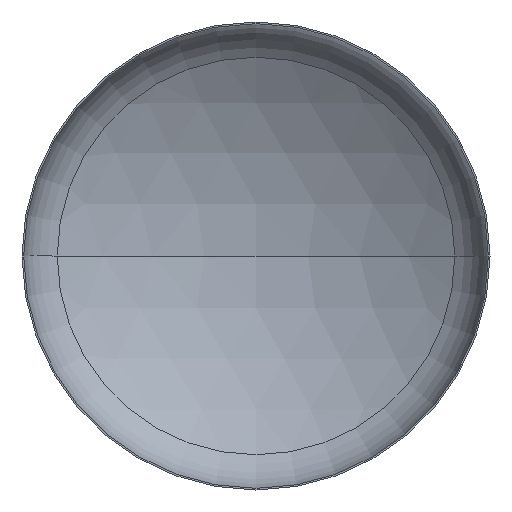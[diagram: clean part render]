
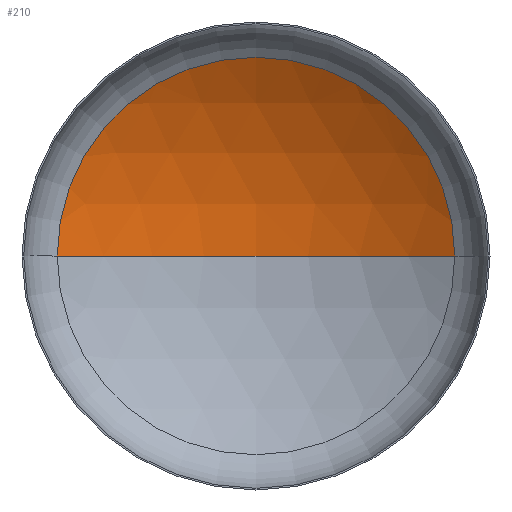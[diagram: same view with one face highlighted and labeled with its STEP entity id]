
A CAD part, front view. The second image highlights one B-rep face of the part: STEP entity #210.
In plain terms, the highlighted spherical face has radius 1360 mm.
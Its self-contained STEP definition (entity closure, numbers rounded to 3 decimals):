
#7 = AXIS2_PLACEMENT_3D ( 'NONE', #174, #360, #214 ) ;
#8 = CARTESIAN_POINT ( 'NONE',  ( 722.036, 240.331, 0. ) ) ;
#12 = AXIS2_PLACEMENT_3D ( 'NONE', #334, #30, #278 ) ;
#16 = AXIS2_PLACEMENT_3D ( 'NONE', #396, #376, #120 ) ;
#30 = DIRECTION ( 'NONE',  ( 0., 0., -1. ) ) ;
#32 = ORIENTED_EDGE ( 'NONE', *, *, #357, .T. ) ;
#43 = VERTEX_POINT ( 'NONE', #8 ) ;
#51 = VERTEX_POINT ( 'NONE', #371 ) ;
#55 = AXIS2_PLACEMENT_3D ( 'NONE', #189, #349, #394 ) ;
#97 = ORIENTED_EDGE ( 'NONE', *, *, #333, .T. ) ;
#109 = ORIENTED_EDGE ( 'NONE', *, *, #340, .F. ) ;
#119 = CIRCLE ( 'NONE', #7, 722.036 ) ;
#120 = DIRECTION ( 'NONE',  ( 1., 0., 0. ) ) ;
#135 = CIRCLE ( 'NONE', #16, 1360. ) ;
#164 = VERTEX_POINT ( 'NONE', #192 ) ;
#174 = CARTESIAN_POINT ( 'NONE',  ( 0., 240.331, 0. ) ) ;
#189 = CARTESIAN_POINT ( 'NONE',  ( 0., -912.172, 0. ) ) ;
#192 = CARTESIAN_POINT ( 'NONE',  ( -722.036, 240.331, 0. ) ) ;
#210 = ADVANCED_FACE ( 'NONE', ( #255 ), #324, .F. ) ;
#214 = DIRECTION ( 'NONE',  ( 1., 0., 0. ) ) ;
#255 = FACE_OUTER_BOUND ( 'NONE', #297, .T. ) ;
#278 = DIRECTION ( 'NONE',  ( -1., 0., 0. ) ) ;
#297 = EDGE_LOOP ( 'NONE', ( #109, #97, #32 ) ) ;
#324 = SPHERICAL_SURFACE ( 'NONE', #55, 1360. ) ;
#333 = EDGE_CURVE ( 'NONE', #51, #43, #350, .T. ) ;
#334 = CARTESIAN_POINT ( 'NONE',  ( 0., -912.172, 0. ) ) ;
#340 = EDGE_CURVE ( 'NONE', #51, #164, #135, .T. ) ;
#349 = DIRECTION ( 'NONE',  ( 0., 0., -1. ) ) ;
#350 = CIRCLE ( 'NONE', #12, 1360. ) ;
#357 = EDGE_CURVE ( 'NONE', #43, #164, #119, .T. ) ;
#360 = DIRECTION ( 'NONE',  ( 0., -1., 0. ) ) ;
#371 = CARTESIAN_POINT ( 'NONE',  ( 0., 447.828, 0. ) ) ;
#376 = DIRECTION ( 'NONE',  ( 0., 0., 1. ) ) ;
#394 = DIRECTION ( 'NONE',  ( -1., 0., 0. ) ) ;
#396 = CARTESIAN_POINT ( 'NONE',  ( 0., -912.172, 0. ) ) ;
